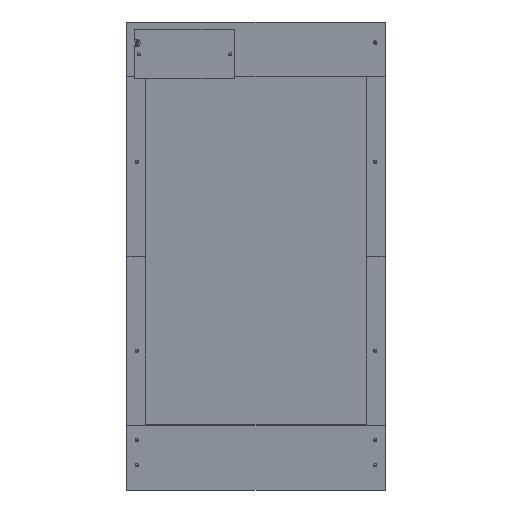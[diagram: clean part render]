
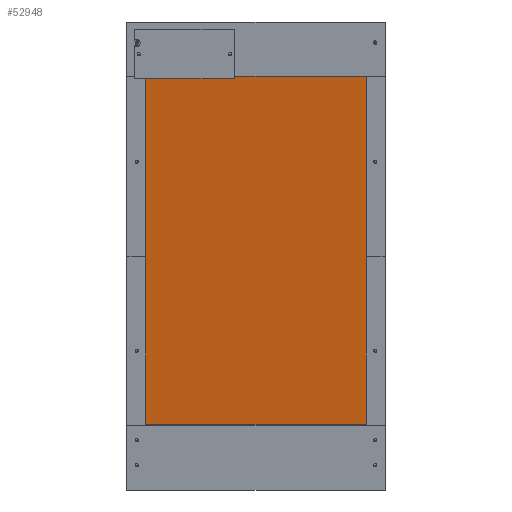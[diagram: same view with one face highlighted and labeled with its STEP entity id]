
A CAD part, top view. The second image highlights one B-rep face of the part: STEP entity #52948.
In plain terms, the highlighted planar face has unit normal (0, -0.174, 0.985).
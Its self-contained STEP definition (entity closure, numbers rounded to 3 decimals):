
#52779 = PLANE('',#52780);
#52780 = AXIS2_PLACEMENT_3D('',#52781,#52782,#52783);
#52781 = CARTESIAN_POINT('',(18.1,64.,86.285));
#52782 = DIRECTION('',(-0.,1.,0.));
#52783 = DIRECTION('',(0.,0.,-1.));
#52807 = PLANE('',#52808);
#52808 = AXIS2_PLACEMENT_3D('',#52809,#52810,#52811);
#52809 = CARTESIAN_POINT('',(241.9,240.675,111.437));
#52810 = DIRECTION('',(1.,0.,0.));
#52811 = DIRECTION('',(-0.,0.,1.));
#52835 = PLANE('',#52836);
#52836 = AXIS2_PLACEMENT_3D('',#52837,#52838,#52839);
#52837 = CARTESIAN_POINT('',(18.1,417.349,136.59));
#52838 = DIRECTION('',(0.,-1.,0.));
#52839 = DIRECTION('',(0.,0.,1.));
#52861 = PLANE('',#52862);
#52862 = AXIS2_PLACEMENT_3D('',#52863,#52864,#52865);
#52863 = CARTESIAN_POINT('',(18.1,240.675,111.437));
#52864 = DIRECTION('',(1.,0.,0.));
#52865 = DIRECTION('',(-0.,0.,1.));
#52878 = VERTEX_POINT('',#52879);
#52879 = CARTESIAN_POINT('',(241.9,417.349,148.59));
#52900 = EDGE_CURVE('',#52901,#52878,#52903,.T.);
#52901 = VERTEX_POINT('',#52902);
#52902 = CARTESIAN_POINT('',(18.1,417.349,148.59));
#52903 = SURFACE_CURVE('',#52904,(#52908,#52915),.PCURVE_S1.);
#52904 = LINE('',#52905,#52906);
#52905 = CARTESIAN_POINT('',(18.1,417.349,148.59));
#52906 = VECTOR('',#52907,1.);
#52907 = DIRECTION('',(1.,0.,0.));
#52908 = PCURVE('',#52835,#52909);
#52909 = DEFINITIONAL_REPRESENTATION('',(#52910),#52914);
#52910 = LINE('',#52911,#52912);
#52911 = CARTESIAN_POINT('',(12.,0.));
#52912 = VECTOR('',#52913,1.);
#52913 = DIRECTION('',(0.,-1.));
#52914 = ( GEOMETRIC_REPRESENTATION_CONTEXT(2) 
PARAMETRIC_REPRESENTATION_CONTEXT() REPRESENTATION_CONTEXT('2D SPACE',''
  ) );
#52915 = PCURVE('',#52916,#52921);
#52916 = PLANE('',#52917);
#52917 = AXIS2_PLACEMENT_3D('',#52918,#52919,#52920);
#52918 = CARTESIAN_POINT('',(18.1,417.349,148.59));
#52919 = DIRECTION('',(0.,0.174,-0.985));
#52920 = DIRECTION('',(0.,-0.985,-0.174));
#52921 = DEFINITIONAL_REPRESENTATION('',(#52922),#52926);
#52922 = LINE('',#52923,#52924);
#52923 = CARTESIAN_POINT('',(0.,0.));
#52924 = VECTOR('',#52925,1.);
#52925 = DIRECTION('',(0.,-1.));
#52926 = ( GEOMETRIC_REPRESENTATION_CONTEXT(2) 
PARAMETRIC_REPRESENTATION_CONTEXT() REPRESENTATION_CONTEXT('2D SPACE',''
  ) );
#52948 = ADVANCED_FACE('',(#52949),#52916,.F.);
#52949 = FACE_BOUND('',#52950,.F.);
#52950 = EDGE_LOOP('',(#52951,#52952,#52975,#52998));
#52951 = ORIENTED_EDGE('',*,*,#52900,.T.);
#52952 = ORIENTED_EDGE('',*,*,#52953,.T.);
#52953 = EDGE_CURVE('',#52878,#52954,#52956,.T.);
#52954 = VERTEX_POINT('',#52955);
#52955 = CARTESIAN_POINT('',(241.9,64.,86.285));
#52956 = SURFACE_CURVE('',#52957,(#52961,#52968),.PCURVE_S1.);
#52957 = LINE('',#52958,#52959);
#52958 = CARTESIAN_POINT('',(241.9,417.349,148.59));
#52959 = VECTOR('',#52960,1.);
#52960 = DIRECTION('',(0.,-0.985,-0.174));
#52961 = PCURVE('',#52916,#52962);
#52962 = DEFINITIONAL_REPRESENTATION('',(#52963),#52967);
#52963 = LINE('',#52964,#52965);
#52964 = CARTESIAN_POINT('',(0.,-223.8));
#52965 = VECTOR('',#52966,1.);
#52966 = DIRECTION('',(1.,0.));
#52967 = ( GEOMETRIC_REPRESENTATION_CONTEXT(2) 
PARAMETRIC_REPRESENTATION_CONTEXT() REPRESENTATION_CONTEXT('2D SPACE',''
  ) );
#52968 = PCURVE('',#52807,#52969);
#52969 = DEFINITIONAL_REPRESENTATION('',(#52970),#52974);
#52970 = LINE('',#52971,#52972);
#52971 = CARTESIAN_POINT('',(37.152,-176.675));
#52972 = VECTOR('',#52973,1.);
#52973 = DIRECTION('',(-0.174,0.985));
#52974 = ( GEOMETRIC_REPRESENTATION_CONTEXT(2) 
PARAMETRIC_REPRESENTATION_CONTEXT() REPRESENTATION_CONTEXT('2D SPACE',''
  ) );
#52975 = ORIENTED_EDGE('',*,*,#52976,.F.);
#52976 = EDGE_CURVE('',#52977,#52954,#52979,.T.);
#52977 = VERTEX_POINT('',#52978);
#52978 = CARTESIAN_POINT('',(18.1,64.,86.285));
#52979 = SURFACE_CURVE('',#52980,(#52984,#52991),.PCURVE_S1.);
#52980 = LINE('',#52981,#52982);
#52981 = CARTESIAN_POINT('',(18.1,64.,86.285));
#52982 = VECTOR('',#52983,1.);
#52983 = DIRECTION('',(1.,0.,0.));
#52984 = PCURVE('',#52916,#52985);
#52985 = DEFINITIONAL_REPRESENTATION('',(#52986),#52990);
#52986 = LINE('',#52987,#52988);
#52987 = CARTESIAN_POINT('',(358.8,0.));
#52988 = VECTOR('',#52989,1.);
#52989 = DIRECTION('',(0.,-1.));
#52990 = ( GEOMETRIC_REPRESENTATION_CONTEXT(2) 
PARAMETRIC_REPRESENTATION_CONTEXT() REPRESENTATION_CONTEXT('2D SPACE',''
  ) );
#52991 = PCURVE('',#52779,#52992);
#52992 = DEFINITIONAL_REPRESENTATION('',(#52993),#52997);
#52993 = LINE('',#52994,#52995);
#52994 = CARTESIAN_POINT('',(0.,0.));
#52995 = VECTOR('',#52996,1.);
#52996 = DIRECTION('',(0.,-1.));
#52997 = ( GEOMETRIC_REPRESENTATION_CONTEXT(2) 
PARAMETRIC_REPRESENTATION_CONTEXT() REPRESENTATION_CONTEXT('2D SPACE',''
  ) );
#52998 = ORIENTED_EDGE('',*,*,#52999,.F.);
#52999 = EDGE_CURVE('',#52901,#52977,#53000,.T.);
#53000 = SURFACE_CURVE('',#53001,(#53005,#53012),.PCURVE_S1.);
#53001 = LINE('',#53002,#53003);
#53002 = CARTESIAN_POINT('',(18.1,417.349,148.59));
#53003 = VECTOR('',#53004,1.);
#53004 = DIRECTION('',(0.,-0.985,-0.174));
#53005 = PCURVE('',#52916,#53006);
#53006 = DEFINITIONAL_REPRESENTATION('',(#53007),#53011);
#53007 = LINE('',#53008,#53009);
#53008 = CARTESIAN_POINT('',(0.,0.));
#53009 = VECTOR('',#53010,1.);
#53010 = DIRECTION('',(1.,0.));
#53011 = ( GEOMETRIC_REPRESENTATION_CONTEXT(2) 
PARAMETRIC_REPRESENTATION_CONTEXT() REPRESENTATION_CONTEXT('2D SPACE',''
  ) );
#53012 = PCURVE('',#52861,#53013);
#53013 = DEFINITIONAL_REPRESENTATION('',(#53014),#53018);
#53014 = LINE('',#53015,#53016);
#53015 = CARTESIAN_POINT('',(37.152,-176.675));
#53016 = VECTOR('',#53017,1.);
#53017 = DIRECTION('',(-0.174,0.985));
#53018 = ( GEOMETRIC_REPRESENTATION_CONTEXT(2) 
PARAMETRIC_REPRESENTATION_CONTEXT() REPRESENTATION_CONTEXT('2D SPACE',''
  ) );
